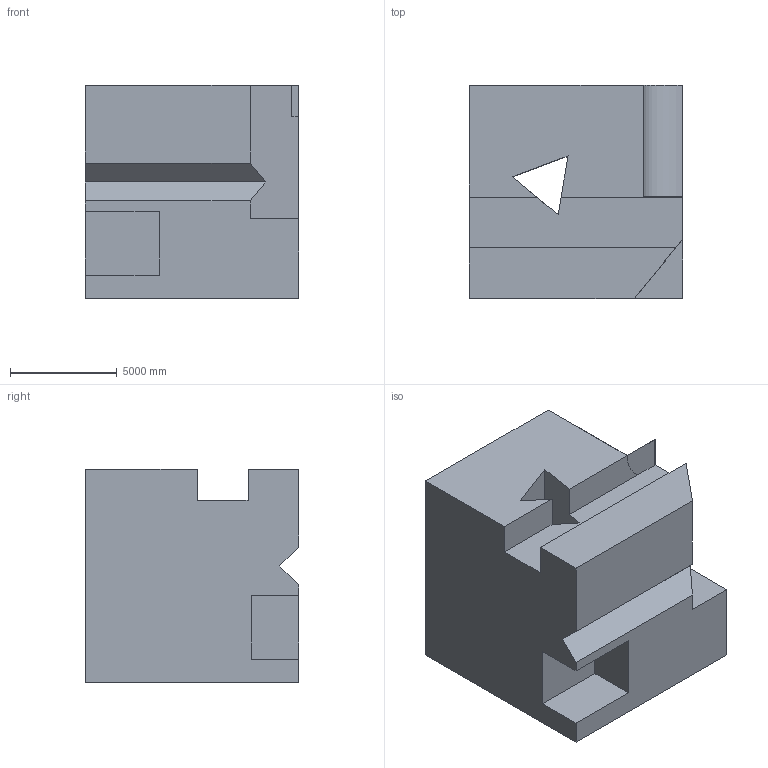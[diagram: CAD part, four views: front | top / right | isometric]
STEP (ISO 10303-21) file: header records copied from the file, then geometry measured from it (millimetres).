
FILE_DESCRIPTION (( 'STEP AP203' ), '1' );
FILE_NAME ('569.STEP', '2022-07-29T11:52:12', ( 'user' ), ( '' ), 'SwSTEP 2.0', 'SolidWorks 2021', '' );
FILE_SCHEMA (( 'CONFIG_CONTROL_DESIGN' ));
Length unit declared in the file: centimetre
Products named in the file (1): 569
Bounding box: 10000 x 10000 x 10000 mm (x, y, z)
Volume: 869475114470.3 mm3; surface area: 700778424 mm2
Topology: 1 solids, 1 shells, 25 faces, 72 edges, 48 vertices
Faces by surface type: plane 24, cylinder 1
Entity records: 889 total; most frequent: CARTESIAN_POINT 146, ORIENTED_EDGE 144, DIRECTION 126, EDGE_CURVE 72, LINE 70, VECTOR 70, VERTEX_POINT 48, AXIS2_PLACEMENT_3D 28
